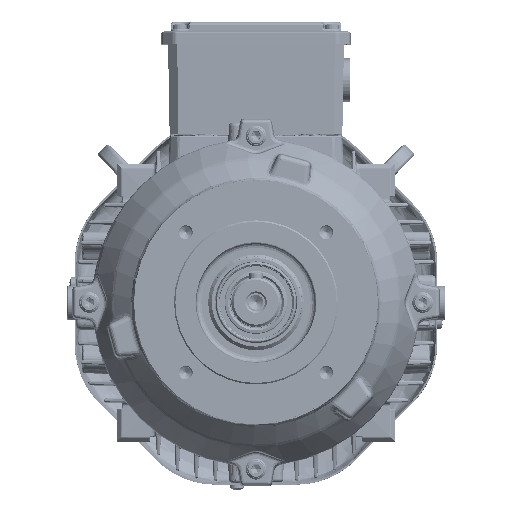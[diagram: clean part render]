
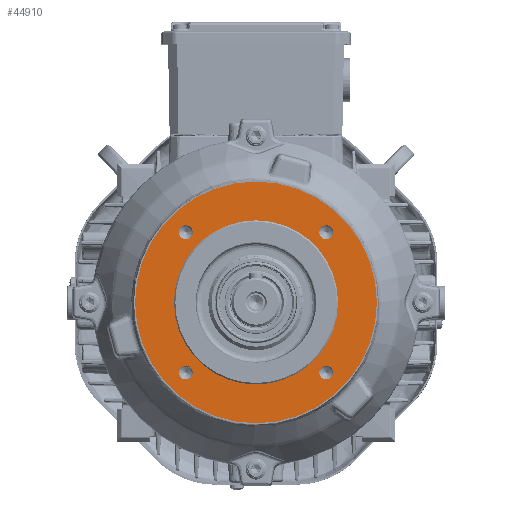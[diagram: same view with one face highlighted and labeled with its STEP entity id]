
A CAD part, top view. The second image highlights one B-rep face of the part: STEP entity #44910.
In plain terms, the highlighted planar face has unit normal (0, 0, 1).
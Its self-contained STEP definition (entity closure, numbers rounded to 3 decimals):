
#42602=PLANE('',#180259);
#44910=ADVANCED_FACE('',(#60278,#60279,#60280,#60281,#60282,#60283),#42602,
 .T.);
#60278=FACE_BOUND('',#62141,.T.);
#60279=FACE_BOUND('',#62142,.T.);
#60280=FACE_BOUND('',#62143,.T.);
#60281=FACE_BOUND('',#62144,.T.);
#60282=FACE_BOUND('',#62145,.T.);
#60283=FACE_BOUND('',#62146,.T.);
#62141=EDGE_LOOP('',(#75080));
#62142=EDGE_LOOP('',(#75081));
#62143=EDGE_LOOP('',(#75082));
#62144=EDGE_LOOP('',(#75083));
#62145=EDGE_LOOP('',(#75084));
#62146=EDGE_LOOP('',(#75085));
#75080=ORIENTED_EDGE('',*,*,#143321,.T.);
#75081=ORIENTED_EDGE('',*,*,#143322,.T.);
#75082=ORIENTED_EDGE('',*,*,#143323,.T.);
#75083=ORIENTED_EDGE('',*,*,#143324,.T.);
#75084=ORIENTED_EDGE('',*,*,#143325,.T.);
#75085=ORIENTED_EDGE('',*,*,#143326,.T.);
#127770=VERTEX_POINT('',#248607);
#127771=VERTEX_POINT('',#248609);
#127772=VERTEX_POINT('',#248611);
#127773=VERTEX_POINT('',#248613);
#127774=VERTEX_POINT('',#248615);
#127775=VERTEX_POINT('',#248617);
#143321=EDGE_CURVE('',#127770,#127770,#169725,.T.);
#143322=EDGE_CURVE('',#127771,#127771,#169726,.T.);
#143323=EDGE_CURVE('',#127772,#127772,#169727,.T.);
#143324=EDGE_CURVE('',#127773,#127773,#169728,.T.);
#143325=EDGE_CURVE('',#127774,#127774,#169729,.T.);
#143326=EDGE_CURVE('',#127775,#127775,#169730,.T.);
#169725=CIRCLE('',#180253,4.);
#169726=CIRCLE('',#180254,4.);
#169727=CIRCLE('',#180255,4.);
#169728=CIRCLE('',#180256,4.);
#169729=CIRCLE('',#180257,47.5);
#169730=CIRCLE('',#180258,70.);
#180253=AXIS2_PLACEMENT_3D('',#248606,#200350,#200351);
#180254=AXIS2_PLACEMENT_3D('',#248608,#200352,#200353);
#180255=AXIS2_PLACEMENT_3D('',#248610,#200354,#200355);
#180256=AXIS2_PLACEMENT_3D('',#248612,#200356,#200357);
#180257=AXIS2_PLACEMENT_3D('',#248614,#200358,#200359);
#180258=AXIS2_PLACEMENT_3D('',#248616,#200360,#200361);
#180259=AXIS2_PLACEMENT_3D('',#248618,#200362,#200363);
#200350=DIRECTION('',(0.,0.,-1.));
#200351=DIRECTION('',(1.,0.,0.));
#200352=DIRECTION('',(0.,0.,-1.));
#200353=DIRECTION('',(1.,0.,0.));
#200354=DIRECTION('',(0.,0.,-1.));
#200355=DIRECTION('',(1.,0.,0.));
#200356=DIRECTION('',(0.,0.,-1.));
#200357=DIRECTION('',(1.,0.,0.));
#200358=DIRECTION('',(0.,0.,-1.));
#200359=DIRECTION('',(-1.,0.,0.));
#200360=DIRECTION('',(0.,0.,1.));
#200361=DIRECTION('',(-1.,0.,0.));
#200362=DIRECTION('',(0.,0.,1.));
#200363=DIRECTION('',(1.,0.,0.));
#248606=CARTESIAN_POINT('',(-40.659,40.659,60.));
#248607=CARTESIAN_POINT('',(-36.659,40.659,60.));
#248608=CARTESIAN_POINT('',(40.659,40.659,60.));
#248609=CARTESIAN_POINT('',(44.659,40.659,60.));
#248610=CARTESIAN_POINT('',(40.659,-40.659,60.));
#248611=CARTESIAN_POINT('',(44.659,-40.659,60.));
#248612=CARTESIAN_POINT('',(-40.659,-40.659,60.));
#248613=CARTESIAN_POINT('',(-36.659,-40.659,60.));
#248614=CARTESIAN_POINT('',(0.,0.,60.));
#248615=CARTESIAN_POINT('',(-47.5,0.,60.));
#248616=CARTESIAN_POINT('',(0.,0.,60.));
#248617=CARTESIAN_POINT('',(-70.,0.,60.));
#248618=CARTESIAN_POINT('',(0.,0.,60.));
